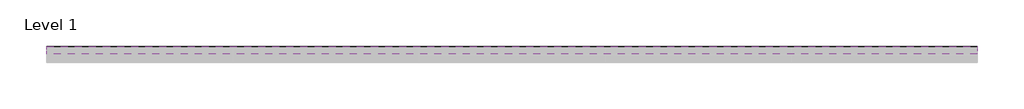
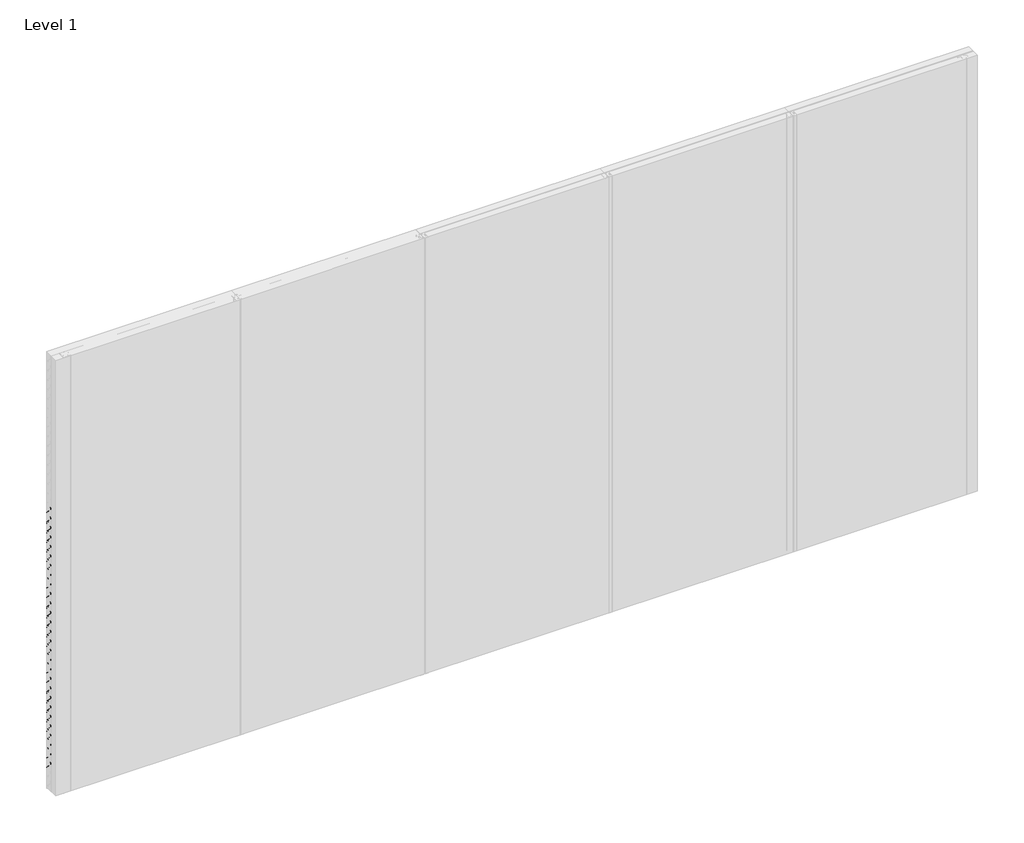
# One storey, part 2 of 7: 28 proxies.
"""IFC4 building model written with IfcOpenShell, lengths in millimetres."""

from ifc_helpers import new_model, si_unit, point, frame, frame_2d, origin, place, context, project, spatial, polyline, circle_curve, trimmed, segment, composite_curve, outline, extrude, element, save

model = new_model("IFC4")

# Units and contexts
model_context = context("Model", 3, world=origin())
ifc_project = project(units=[si_unit("LENGTHUNIT", "METRE", prefix="MILLI")], contexts=[model_context])

# Site, building, storey
site = spatial("IfcSite", under=ifc_project)
building = spatial("IfcBuilding", under=site)
storey = spatial("IfcBuildingStorey", under=building, Name="Level 1", Elevation=0.0)

# Proxies
placement = place(None, origin())
element("IfcBuildingElementProxy", 1, Name="Wall Sweeps", at=placement, inside=storey, context=model_context, shape_type="SweptSolid", body=[
    extrude(outline(composite_curve([segment(polyline([(-13992.5, 1936.0025181), (-13992.5, 1943.9509429), (-13994.5, 1943.9509429), (-13994.5, 1941.5421319), (-13996.0, 1941.5421319), (-13996.0, 1948.6499999), (-13994.5, 1948.6499999), (-13994.5, 1945.4509429), (-13992.5, 1945.4509429), (-13992.5, 1948.7999999), (-13992.1784609, 1950.0), (-13987.7000054, 1950.0), (-13987.7000054, 1946.8499997), (-13989.0835735, 1948.4999997), (-13991.0, 1948.4999997), (-13991.0, 1936.6085574), (-13946.0, 1890.0096933), (-13946.0, 1874.0), (-13947.5, 1876.6798), (-13947.5, 1879.1208496), (-13948.5, 1879.1208496), (-13948.5, 1880.6208496), (-13947.5, 1880.6208496), (-13947.5, 1889.4036539), (-13961.2088107, 1903.599543), (-13963.4375599, 1901.3707939), (-13962.8739549, 1900.8071888)]), True, "CONTINUOUS"), segment(trimmed(circle_curve(frame_2d((-13963.2275083, 1900.4536354)), 0.5), [point((-13962.8739549, 1900.8071888))], [point((-13963.3569178, 1899.9706725))], False, "CARTESIAN"), True, "CONTINUOUS"), segment(polyline([(-13963.3569178, 1899.9706725), (-13966.1977917, 1900.7318824), (-13962.250957, 1904.6787171), (-13992.5, 1936.0025181)]), True, "CONTINUOUS")], self_intersect=False)), frame((0.0, 0.0, 0.0), z_axis=(1.0, 0.0, 0.0), x_axis=(0.0, 1.0, 0.0)), (0.0, 0.0, 1.0), 6000.0),
])
element("IfcBuildingElementProxy", 2, Name="Wall Sweeps", at=placement, inside=storey, context=model_context, shape_type="SweptSolid", body=[
    extrude(outline(composite_curve([segment(polyline([(-13992.5, 1871.0025181), (-13992.5, 1878.9509429), (-13994.5, 1878.9509429), (-13994.5, 1876.5421319), (-13996.0, 1876.5421319), (-13996.0, 1883.6499999), (-13994.5, 1883.6499999), (-13994.5, 1880.4509429), (-13992.5, 1880.4509429), (-13992.5, 1883.7999999), (-13992.1784609, 1885.0), (-13987.7000054, 1885.0), (-13987.7000054, 1881.8499997), (-13989.0835735, 1883.4999997), (-13991.0, 1883.4999997), (-13991.0, 1871.6085574), (-13946.0, 1825.0096933), (-13946.0, 1809.0), (-13947.5, 1811.6798), (-13947.5, 1814.1208496), (-13948.5, 1814.1208496), (-13948.5, 1815.6208496), (-13947.5, 1815.6208496), (-13947.5, 1824.4036539), (-13961.2088107, 1838.599543), (-13963.4375599, 1836.3707939), (-13962.8739549, 1835.8071888)]), True, "CONTINUOUS"), segment(trimmed(circle_curve(frame_2d((-13963.2275083, 1835.4536354)), 0.5), [point((-13962.8739549, 1835.8071888))], [point((-13963.3569178, 1834.9706725))], False, "CARTESIAN"), True, "CONTINUOUS"), segment(polyline([(-13963.3569178, 1834.9706725), (-13966.1977917, 1835.7318824), (-13962.250957, 1839.6787171), (-13992.5, 1871.0025181)]), True, "CONTINUOUS")], self_intersect=False)), frame((0.0, 0.0, 0.0), z_axis=(1.0, 0.0, 0.0), x_axis=(0.0, 1.0, 0.0)), (0.0, 0.0, 1.0), 6000.0),
])
element("IfcBuildingElementProxy", 3, Name="Wall Sweeps", at=placement, inside=storey, context=model_context, shape_type="SweptSolid", body=[
    extrude(outline(composite_curve([segment(polyline([(-13992.5, 1806.0025181), (-13992.5, 1813.9509429), (-13994.5, 1813.9509429), (-13994.5, 1811.5421319), (-13996.0, 1811.5421319), (-13996.0, 1818.6499999), (-13994.5, 1818.6499999), (-13994.5, 1815.4509429), (-13992.5, 1815.4509429), (-13992.5, 1818.7999999), (-13992.1784609, 1820.0), (-13987.7000054, 1820.0), (-13987.7000054, 1816.8499997), (-13989.0835735, 1818.4999997), (-13991.0, 1818.4999997), (-13991.0, 1806.6085574), (-13946.0, 1760.0096933), (-13946.0, 1744.0), (-13947.5, 1746.6798), (-13947.5, 1749.1208496), (-13948.5, 1749.1208496), (-13948.5, 1750.6208496), (-13947.5, 1750.6208496), (-13947.5, 1759.4036539), (-13961.2088107, 1773.599543), (-13963.4375599, 1771.3707939), (-13962.8739549, 1770.8071888)]), True, "CONTINUOUS"), segment(trimmed(circle_curve(frame_2d((-13963.2275083, 1770.4536354)), 0.5), [point((-13962.8739549, 1770.8071888))], [point((-13963.3569178, 1769.9706725))], False, "CARTESIAN"), True, "CONTINUOUS"), segment(polyline([(-13963.3569178, 1769.9706725), (-13966.1977917, 1770.7318824), (-13962.250957, 1774.6787171), (-13992.5, 1806.0025181)]), True, "CONTINUOUS")], self_intersect=False)), frame((0.0, 0.0, 0.0), z_axis=(1.0, 0.0, 0.0), x_axis=(0.0, 1.0, 0.0)), (0.0, 0.0, 1.0), 6000.0),
])
element("IfcBuildingElementProxy", 4, Name="Wall Sweeps", at=placement, inside=storey, context=model_context, shape_type="SweptSolid", body=[
    extrude(outline(composite_curve([segment(polyline([(-13992.5, 1741.0025181), (-13992.5, 1748.9509429), (-13994.5, 1748.9509429), (-13994.5, 1746.5421319), (-13996.0, 1746.5421319), (-13996.0, 1753.6499999), (-13994.5, 1753.6499999), (-13994.5, 1750.4509429), (-13992.5, 1750.4509429), (-13992.5, 1753.7999999), (-13992.1784609, 1755.0), (-13987.7000054, 1755.0), (-13987.7000054, 1751.8499997), (-13989.0835735, 1753.4999997), (-13991.0, 1753.4999997), (-13991.0, 1741.6085574), (-13946.0, 1695.0096933), (-13946.0, 1679.0), (-13947.5, 1681.6798), (-13947.5, 1684.1208496), (-13948.5, 1684.1208496), (-13948.5, 1685.6208496), (-13947.5, 1685.6208496), (-13947.5, 1694.4036539), (-13961.2088107, 1708.599543), (-13963.4375599, 1706.3707939), (-13962.8739549, 1705.8071888)]), True, "CONTINUOUS"), segment(trimmed(circle_curve(frame_2d((-13963.2275083, 1705.4536354)), 0.5), [point((-13962.8739549, 1705.8071888))], [point((-13963.3569178, 1704.9706725))], False, "CARTESIAN"), True, "CONTINUOUS"), segment(polyline([(-13963.3569178, 1704.9706725), (-13966.1977917, 1705.7318824), (-13962.250957, 1709.6787171), (-13992.5, 1741.0025181)]), True, "CONTINUOUS")], self_intersect=False)), frame((0.0, 0.0, 0.0), z_axis=(1.0, 0.0, 0.0), x_axis=(0.0, 1.0, 0.0)), (0.0, 0.0, 1.0), 6000.0),
])
element("IfcBuildingElementProxy", 5, Name="Wall Sweeps", at=placement, inside=storey, context=model_context, shape_type="SweptSolid", body=[
    extrude(outline(composite_curve([segment(polyline([(-13992.5, 1676.0025181), (-13992.5, 1683.9509429), (-13994.5, 1683.9509429), (-13994.5, 1681.5421319), (-13996.0, 1681.5421319), (-13996.0, 1688.6499999), (-13994.5, 1688.6499999), (-13994.5, 1685.4509429), (-13992.5, 1685.4509429), (-13992.5, 1688.7999999), (-13992.1784609, 1690.0), (-13987.7000054, 1690.0), (-13987.7000054, 1686.8499997), (-13989.0835735, 1688.4999997), (-13991.0, 1688.4999997), (-13991.0, 1676.6085574), (-13946.0, 1630.0096933), (-13946.0, 1614.0), (-13947.5, 1616.6798), (-13947.5, 1619.1208496), (-13948.5, 1619.1208496), (-13948.5, 1620.6208496), (-13947.5, 1620.6208496), (-13947.5, 1629.4036539), (-13961.2088107, 1643.599543), (-13963.4375599, 1641.3707939), (-13962.8739549, 1640.8071888)]), True, "CONTINUOUS"), segment(trimmed(circle_curve(frame_2d((-13963.2275083, 1640.4536354)), 0.5), [point((-13962.8739549, 1640.8071888))], [point((-13963.3569178, 1639.9706725))], False, "CARTESIAN"), True, "CONTINUOUS"), segment(polyline([(-13963.3569178, 1639.9706725), (-13966.1977917, 1640.7318824), (-13962.250957, 1644.6787171), (-13992.5, 1676.0025181)]), True, "CONTINUOUS")], self_intersect=False)), frame((0.0, 0.0, 0.0), z_axis=(1.0, 0.0, 0.0), x_axis=(0.0, 1.0, 0.0)), (0.0, 0.0, 1.0), 6000.0),
])
element("IfcBuildingElementProxy", 6, Name="Wall Sweeps", at=placement, inside=storey, context=model_context, shape_type="SweptSolid", body=[
    extrude(outline(composite_curve([segment(polyline([(-13992.5, 1611.0025181), (-13992.5, 1618.9509429), (-13994.5, 1618.9509429), (-13994.5, 1616.5421319), (-13996.0, 1616.5421319), (-13996.0, 1623.6499999), (-13994.5, 1623.6499999), (-13994.5, 1620.4509429), (-13992.5, 1620.4509429), (-13992.5, 1623.7999999), (-13992.1784609, 1625.0), (-13987.7000054, 1625.0), (-13987.7000054, 1621.8499997), (-13989.0835735, 1623.4999997), (-13991.0, 1623.4999997), (-13991.0, 1611.6085574), (-13946.0, 1565.0096933), (-13946.0, 1549.0), (-13947.5, 1551.6798), (-13947.5, 1554.1208496), (-13948.5, 1554.1208496), (-13948.5, 1555.6208496), (-13947.5, 1555.6208496), (-13947.5, 1564.4036539), (-13961.2088107, 1578.599543), (-13963.4375599, 1576.3707939), (-13962.8739549, 1575.8071888)]), True, "CONTINUOUS"), segment(trimmed(circle_curve(frame_2d((-13963.2275083, 1575.4536354)), 0.5), [point((-13962.8739549, 1575.8071888))], [point((-13963.3569178, 1574.9706725))], False, "CARTESIAN"), True, "CONTINUOUS"), segment(polyline([(-13963.3569178, 1574.9706725), (-13966.1977917, 1575.7318824), (-13962.250957, 1579.6787171), (-13992.5, 1611.0025181)]), True, "CONTINUOUS")], self_intersect=False)), frame((0.0, 0.0, 0.0), z_axis=(1.0, 0.0, 0.0), x_axis=(0.0, 1.0, 0.0)), (0.0, 0.0, 1.0), 6000.0),
])
element("IfcBuildingElementProxy", 7, Name="Wall Sweeps", at=placement, inside=storey, context=model_context, shape_type="SweptSolid", body=[
    extrude(outline(composite_curve([segment(polyline([(-13992.5, 1546.0025181), (-13992.5, 1553.9509429), (-13994.5, 1553.9509429), (-13994.5, 1551.5421319), (-13996.0, 1551.5421319), (-13996.0, 1558.6499999), (-13994.5, 1558.6499999), (-13994.5, 1555.4509429), (-13992.5, 1555.4509429), (-13992.5, 1558.7999999), (-13992.1784609, 1560.0), (-13987.7000054, 1560.0), (-13987.7000054, 1556.8499997), (-13989.0835735, 1558.4999997), (-13991.0, 1558.4999997), (-13991.0, 1546.6085574), (-13946.0, 1500.0096933), (-13946.0, 1484.0), (-13947.5, 1486.6798), (-13947.5, 1489.1208496), (-13948.5, 1489.1208496), (-13948.5, 1490.6208496), (-13947.5, 1490.6208496), (-13947.5, 1499.4036539), (-13961.2088107, 1513.599543), (-13963.4375599, 1511.3707939), (-13962.8739549, 1510.8071888)]), True, "CONTINUOUS"), segment(trimmed(circle_curve(frame_2d((-13963.2275083, 1510.4536354)), 0.5), [point((-13962.8739549, 1510.8071888))], [point((-13963.3569178, 1509.9706725))], False, "CARTESIAN"), True, "CONTINUOUS"), segment(polyline([(-13963.3569178, 1509.9706725), (-13966.1977917, 1510.7318824), (-13962.250957, 1514.6787171), (-13992.5, 1546.0025181)]), True, "CONTINUOUS")], self_intersect=False)), frame((0.0, 0.0, 0.0), z_axis=(1.0, 0.0, 0.0), x_axis=(0.0, 1.0, 0.0)), (0.0, 0.0, 1.0), 6000.0),
])
element("IfcBuildingElementProxy", 8, Name="Wall Sweeps", at=placement, inside=storey, context=model_context, shape_type="SweptSolid", body=[
    extrude(outline(composite_curve([segment(polyline([(-13992.5, 1481.0025181), (-13992.5, 1488.9509429), (-13994.5, 1488.9509429), (-13994.5, 1486.5421319), (-13996.0, 1486.5421319), (-13996.0, 1493.6499999), (-13994.5, 1493.6499999), (-13994.5, 1490.4509429), (-13992.5, 1490.4509429), (-13992.5, 1493.7999999), (-13992.1784609, 1495.0), (-13987.7000054, 1495.0), (-13987.7000054, 1491.8499997), (-13989.0835735, 1493.4999997), (-13991.0, 1493.4999997), (-13991.0, 1481.6085574), (-13946.0, 1435.0096933), (-13946.0, 1419.0), (-13947.5, 1421.6798), (-13947.5, 1424.1208496), (-13948.5, 1424.1208496), (-13948.5, 1425.6208496), (-13947.5, 1425.6208496), (-13947.5, 1434.4036539), (-13961.2088107, 1448.599543), (-13963.4375599, 1446.3707939), (-13962.8739549, 1445.8071888)]), True, "CONTINUOUS"), segment(trimmed(circle_curve(frame_2d((-13963.2275083, 1445.4536354)), 0.5), [point((-13962.8739549, 1445.8071888))], [point((-13963.3569178, 1444.9706725))], False, "CARTESIAN"), True, "CONTINUOUS"), segment(polyline([(-13963.3569178, 1444.9706725), (-13966.1977917, 1445.7318824), (-13962.250957, 1449.6787171), (-13992.5, 1481.0025181)]), True, "CONTINUOUS")], self_intersect=False)), frame((0.0, 0.0, 0.0), z_axis=(1.0, 0.0, 0.0), x_axis=(0.0, 1.0, 0.0)), (0.0, 0.0, 1.0), 6000.0),
])
element("IfcBuildingElementProxy", 9, Name="Wall Sweeps", at=placement, inside=storey, context=model_context, shape_type="SweptSolid", body=[
    extrude(outline(composite_curve([segment(polyline([(-13992.5, 1416.0025181), (-13992.5, 1423.9509429), (-13994.5, 1423.9509429), (-13994.5, 1421.5421319), (-13996.0, 1421.5421319), (-13996.0, 1428.6499999), (-13994.5, 1428.6499999), (-13994.5, 1425.4509429), (-13992.5, 1425.4509429), (-13992.5, 1428.7999999), (-13992.1784609, 1430.0), (-13987.7000054, 1430.0), (-13987.7000054, 1426.8499997), (-13989.0835735, 1428.4999997), (-13991.0, 1428.4999997), (-13991.0, 1416.6085574), (-13946.0, 1370.0096933), (-13946.0, 1354.0), (-13947.5, 1356.6798), (-13947.5, 1359.1208496), (-13948.5, 1359.1208496), (-13948.5, 1360.6208496), (-13947.5, 1360.6208496), (-13947.5, 1369.4036539), (-13961.2088107, 1383.599543), (-13963.4375599, 1381.3707939), (-13962.8739549, 1380.8071888)]), True, "CONTINUOUS"), segment(trimmed(circle_curve(frame_2d((-13963.2275083, 1380.4536354)), 0.5), [point((-13962.8739549, 1380.8071888))], [point((-13963.3569178, 1379.9706725))], False, "CARTESIAN"), True, "CONTINUOUS"), segment(polyline([(-13963.3569178, 1379.9706725), (-13966.1977917, 1380.7318824), (-13962.250957, 1384.6787171), (-13992.5, 1416.0025181)]), True, "CONTINUOUS")], self_intersect=False)), frame((0.0, 0.0, 0.0), z_axis=(1.0, 0.0, 0.0), x_axis=(0.0, 1.0, 0.0)), (0.0, 0.0, 1.0), 6000.0),
])
element("IfcBuildingElementProxy", 10, Name="Wall Sweeps", at=placement, inside=storey, context=model_context, shape_type="SweptSolid", body=[
    extrude(outline(composite_curve([segment(polyline([(-13992.5, 1351.0025181), (-13992.5, 1358.9509429), (-13994.5, 1358.9509429), (-13994.5, 1356.5421319), (-13996.0, 1356.5421319), (-13996.0, 1363.6499999), (-13994.5, 1363.6499999), (-13994.5, 1360.4509429), (-13992.5, 1360.4509429), (-13992.5, 1363.7999999), (-13992.1784609, 1365.0), (-13987.7000054, 1365.0), (-13987.7000054, 1361.8499997), (-13989.0835735, 1363.4999997), (-13991.0, 1363.4999997), (-13991.0, 1351.6085574), (-13946.0, 1305.0096933), (-13946.0, 1289.0), (-13947.5, 1291.6798), (-13947.5, 1294.1208496), (-13948.5, 1294.1208496), (-13948.5, 1295.6208496), (-13947.5, 1295.6208496), (-13947.5, 1304.4036539), (-13961.2088107, 1318.599543), (-13963.4375599, 1316.3707939), (-13962.8739549, 1315.8071888)]), True, "CONTINUOUS"), segment(trimmed(circle_curve(frame_2d((-13963.2275083, 1315.4536354)), 0.5), [point((-13962.8739549, 1315.8071888))], [point((-13963.3569178, 1314.9706725))], False, "CARTESIAN"), True, "CONTINUOUS"), segment(polyline([(-13963.3569178, 1314.9706725), (-13966.1977917, 1315.7318824), (-13962.250957, 1319.6787171), (-13992.5, 1351.0025181)]), True, "CONTINUOUS")], self_intersect=False)), frame((0.0, 0.0, 0.0), z_axis=(1.0, 0.0, 0.0), x_axis=(0.0, 1.0, 0.0)), (0.0, 0.0, 1.0), 6000.0),
])
element("IfcBuildingElementProxy", 11, Name="Wall Sweeps", at=placement, inside=storey, context=model_context, shape_type="SweptSolid", body=[
    extrude(outline(composite_curve([segment(polyline([(-13992.5, 1286.0025181), (-13992.5, 1293.9509429), (-13994.5, 1293.9509429), (-13994.5, 1291.5421319), (-13996.0, 1291.5421319), (-13996.0, 1298.6499999), (-13994.5, 1298.6499999), (-13994.5, 1295.4509429), (-13992.5, 1295.4509429), (-13992.5, 1298.7999999), (-13992.1784609, 1300.0), (-13987.7000054, 1300.0), (-13987.7000054, 1296.8499997), (-13989.0835735, 1298.4999997), (-13991.0, 1298.4999997), (-13991.0, 1286.6085574), (-13946.0, 1240.0096933), (-13946.0, 1224.0), (-13947.5, 1226.6798), (-13947.5, 1229.1208496), (-13948.5, 1229.1208496), (-13948.5, 1230.6208496), (-13947.5, 1230.6208496), (-13947.5, 1239.4036539), (-13961.2088107, 1253.599543), (-13963.4375599, 1251.3707939), (-13962.8739549, 1250.8071888)]), True, "CONTINUOUS"), segment(trimmed(circle_curve(frame_2d((-13963.2275083, 1250.4536354)), 0.5), [point((-13962.8739549, 1250.8071888))], [point((-13963.3569178, 1249.9706725))], False, "CARTESIAN"), True, "CONTINUOUS"), segment(polyline([(-13963.3569178, 1249.9706725), (-13966.1977917, 1250.7318824), (-13962.250957, 1254.6787171), (-13992.5, 1286.0025181)]), True, "CONTINUOUS")], self_intersect=False)), frame((0.0, 0.0, 0.0), z_axis=(1.0, 0.0, 0.0), x_axis=(0.0, 1.0, 0.0)), (0.0, 0.0, 1.0), 6000.0),
])
element("IfcBuildingElementProxy", 12, Name="Wall Sweeps", at=placement, inside=storey, context=model_context, shape_type="SweptSolid", body=[
    extrude(outline(composite_curve([segment(polyline([(-13992.5, 1221.0025181), (-13992.5, 1228.9509429), (-13994.5, 1228.9509429), (-13994.5, 1226.5421319), (-13996.0, 1226.5421319), (-13996.0, 1233.6499999), (-13994.5, 1233.6499999), (-13994.5, 1230.4509429), (-13992.5, 1230.4509429), (-13992.5, 1233.7999999), (-13992.1784609, 1235.0), (-13987.7000054, 1235.0), (-13987.7000054, 1231.8499997), (-13989.0835735, 1233.4999997), (-13991.0, 1233.4999997), (-13991.0, 1221.6085574), (-13946.0, 1175.0096933), (-13946.0, 1159.0), (-13947.5, 1161.6798), (-13947.5, 1164.1208496), (-13948.5, 1164.1208496), (-13948.5, 1165.6208496), (-13947.5, 1165.6208496), (-13947.5, 1174.4036539), (-13961.2088107, 1188.599543), (-13963.4375599, 1186.3707939), (-13962.8739549, 1185.8071888)]), True, "CONTINUOUS"), segment(trimmed(circle_curve(frame_2d((-13963.2275083, 1185.4536354)), 0.5), [point((-13962.8739549, 1185.8071888))], [point((-13963.3569178, 1184.9706725))], False, "CARTESIAN"), True, "CONTINUOUS"), segment(polyline([(-13963.3569178, 1184.9706725), (-13966.1977917, 1185.7318824), (-13962.250957, 1189.6787171), (-13992.5, 1221.0025181)]), True, "CONTINUOUS")], self_intersect=False)), frame((0.0, 0.0, 0.0), z_axis=(1.0, 0.0, 0.0), x_axis=(0.0, 1.0, 0.0)), (0.0, 0.0, 1.0), 6000.0),
])
element("IfcBuildingElementProxy", 13, Name="Wall Sweeps", at=placement, inside=storey, context=model_context, shape_type="SweptSolid", body=[
    extrude(outline(composite_curve([segment(polyline([(-13992.5, 1156.0025181), (-13992.5, 1163.9509429), (-13994.5, 1163.9509429), (-13994.5, 1161.5421319), (-13996.0, 1161.5421319), (-13996.0, 1168.6499999), (-13994.5, 1168.6499999), (-13994.5, 1165.4509429), (-13992.5, 1165.4509429), (-13992.5, 1168.7999999), (-13992.1784609, 1170.0), (-13987.7000054, 1170.0), (-13987.7000054, 1166.8499997), (-13989.0835735, 1168.4999997), (-13991.0, 1168.4999997), (-13991.0, 1156.6085574), (-13946.0, 1110.0096933), (-13946.0, 1094.0), (-13947.5, 1096.6798), (-13947.5, 1099.1208496), (-13948.5, 1099.1208496), (-13948.5, 1100.6208496), (-13947.5, 1100.6208496), (-13947.5, 1109.4036539), (-13961.2088107, 1123.599543), (-13963.4375599, 1121.3707939), (-13962.8739549, 1120.8071888)]), True, "CONTINUOUS"), segment(trimmed(circle_curve(frame_2d((-13963.2275083, 1120.4536354)), 0.5), [point((-13962.8739549, 1120.8071888))], [point((-13963.3569178, 1119.9706725))], False, "CARTESIAN"), True, "CONTINUOUS"), segment(polyline([(-13963.3569178, 1119.9706725), (-13966.1977917, 1120.7318824), (-13962.250957, 1124.6787171), (-13992.5, 1156.0025181)]), True, "CONTINUOUS")], self_intersect=False)), frame((0.0, 0.0, 0.0), z_axis=(1.0, 0.0, 0.0), x_axis=(0.0, 1.0, 0.0)), (0.0, 0.0, 1.0), 6000.0),
])
element("IfcBuildingElementProxy", 14, Name="Wall Sweeps", at=placement, inside=storey, context=model_context, shape_type="SweptSolid", body=[
    extrude(outline(composite_curve([segment(polyline([(-13992.5, 1091.0025181), (-13992.5, 1098.9509429), (-13994.5, 1098.9509429), (-13994.5, 1096.5421319), (-13996.0, 1096.5421319), (-13996.0, 1103.6499999), (-13994.5, 1103.6499999), (-13994.5, 1100.4509429), (-13992.5, 1100.4509429), (-13992.5, 1103.7999999), (-13992.1784609, 1105.0), (-13987.7000054, 1105.0), (-13987.7000054, 1101.8499997), (-13989.0835735, 1103.4999997), (-13991.0, 1103.4999997), (-13991.0, 1091.6085574), (-13946.0, 1045.0096933), (-13946.0, 1029.0), (-13947.5, 1031.6798), (-13947.5, 1034.1208496), (-13948.5, 1034.1208496), (-13948.5, 1035.6208496), (-13947.5, 1035.6208496), (-13947.5, 1044.4036539), (-13961.2088107, 1058.599543), (-13963.4375599, 1056.3707939), (-13962.8739549, 1055.8071888)]), True, "CONTINUOUS"), segment(trimmed(circle_curve(frame_2d((-13963.2275083, 1055.4536354)), 0.5), [point((-13962.8739549, 1055.8071888))], [point((-13963.3569178, 1054.9706725))], False, "CARTESIAN"), True, "CONTINUOUS"), segment(polyline([(-13963.3569178, 1054.9706725), (-13966.1977917, 1055.7318824), (-13962.250957, 1059.6787171), (-13992.5, 1091.0025181)]), True, "CONTINUOUS")], self_intersect=False)), frame((0.0, 0.0, 0.0), z_axis=(1.0, 0.0, 0.0), x_axis=(0.0, 1.0, 0.0)), (0.0, 0.0, 1.0), 6000.0),
])
element("IfcBuildingElementProxy", 15, Name="Wall Sweeps", at=placement, inside=storey, context=model_context, shape_type="SweptSolid", body=[
    extrude(outline(composite_curve([segment(polyline([(-13992.5, 1026.0025181), (-13992.5, 1033.9509429), (-13994.5, 1033.9509429), (-13994.5, 1031.5421319), (-13996.0, 1031.5421319), (-13996.0, 1038.6499999), (-13994.5, 1038.6499999), (-13994.5, 1035.4509429), (-13992.5, 1035.4509429), (-13992.5, 1038.7999999), (-13992.1784609, 1040.0), (-13987.7000054, 1040.0), (-13987.7000054, 1036.8499997), (-13989.0835735, 1038.4999997), (-13991.0, 1038.4999997), (-13991.0, 1026.6085574), (-13946.0, 980.0096933), (-13946.0, 964.0), (-13947.5, 966.6798), (-13947.5, 969.1208496), (-13948.5, 969.1208496), (-13948.5, 970.6208496), (-13947.5, 970.6208496), (-13947.5, 979.4036539), (-13961.2088107, 993.599543), (-13963.4375599, 991.3707939), (-13962.8739549, 990.8071888)]), True, "CONTINUOUS"), segment(trimmed(circle_curve(frame_2d((-13963.2275083, 990.4536354)), 0.5), [point((-13962.8739549, 990.8071888))], [point((-13963.3569178, 989.9706725))], False, "CARTESIAN"), True, "CONTINUOUS"), segment(polyline([(-13963.3569178, 989.9706725), (-13966.1977917, 990.7318824), (-13962.250957, 994.6787171), (-13992.5, 1026.0025181)]), True, "CONTINUOUS")], self_intersect=False)), frame((0.0, 0.0, 0.0), z_axis=(1.0, 0.0, 0.0), x_axis=(0.0, 1.0, 0.0)), (0.0, 0.0, 1.0), 6000.0),
])
element("IfcBuildingElementProxy", 16, Name="Wall Sweeps", at=placement, inside=storey, context=model_context, shape_type="SweptSolid", body=[
    extrude(outline(composite_curve([segment(polyline([(-13992.5, 961.0025181), (-13992.5, 968.9509429), (-13994.5, 968.9509429), (-13994.5, 966.5421319), (-13996.0, 966.5421319), (-13996.0, 973.6499999), (-13994.5, 973.6499999), (-13994.5, 970.4509429), (-13992.5, 970.4509429), (-13992.5, 973.7999999), (-13992.1784609, 975.0), (-13987.7000054, 975.0), (-13987.7000054, 971.8499997), (-13989.0835735, 973.4999997), (-13991.0, 973.4999997), (-13991.0, 961.6085574), (-13946.0, 915.0096933), (-13946.0, 899.0), (-13947.5, 901.6798), (-13947.5, 904.1208496), (-13948.5, 904.1208496), (-13948.5, 905.6208496), (-13947.5, 905.6208496), (-13947.5, 914.4036539), (-13961.2088107, 928.599543), (-13963.4375599, 926.3707939), (-13962.8739549, 925.8071888)]), True, "CONTINUOUS"), segment(trimmed(circle_curve(frame_2d((-13963.2275083, 925.4536354)), 0.5), [point((-13962.8739549, 925.8071888))], [point((-13963.3569178, 924.9706725))], False, "CARTESIAN"), True, "CONTINUOUS"), segment(polyline([(-13963.3569178, 924.9706725), (-13966.1977917, 925.7318824), (-13962.250957, 929.6787171), (-13992.5, 961.0025181)]), True, "CONTINUOUS")], self_intersect=False)), frame((0.0, 0.0, 0.0), z_axis=(1.0, 0.0, 0.0), x_axis=(0.0, 1.0, 0.0)), (0.0, 0.0, 1.0), 6000.0),
])
element("IfcBuildingElementProxy", 17, Name="Wall Sweeps", at=placement, inside=storey, context=model_context, shape_type="SweptSolid", body=[
    extrude(outline(composite_curve([segment(polyline([(-13992.5, 896.0025181), (-13992.5, 903.9509429), (-13994.5, 903.9509429), (-13994.5, 901.5421319), (-13996.0, 901.5421319), (-13996.0, 908.6499999), (-13994.5, 908.6499999), (-13994.5, 905.4509429), (-13992.5, 905.4509429), (-13992.5, 908.7999999), (-13992.1784609, 910.0), (-13987.7000054, 910.0), (-13987.7000054, 906.8499997), (-13989.0835735, 908.4999997), (-13991.0, 908.4999997), (-13991.0, 896.6085574), (-13946.0, 850.0096933), (-13946.0, 834.0), (-13947.5, 836.6798), (-13947.5, 839.1208496), (-13948.5, 839.1208496), (-13948.5, 840.6208496), (-13947.5, 840.6208496), (-13947.5, 849.4036539), (-13961.2088107, 863.599543), (-13963.4375599, 861.3707939), (-13962.8739549, 860.8071888)]), True, "CONTINUOUS"), segment(trimmed(circle_curve(frame_2d((-13963.2275083, 860.4536354)), 0.5), [point((-13962.8739549, 860.8071888))], [point((-13963.3569178, 859.9706725))], False, "CARTESIAN"), True, "CONTINUOUS"), segment(polyline([(-13963.3569178, 859.9706725), (-13966.1977917, 860.7318824), (-13962.250957, 864.6787171), (-13992.5, 896.0025181)]), True, "CONTINUOUS")], self_intersect=False)), frame((0.0, 0.0, 0.0), z_axis=(1.0, 0.0, 0.0), x_axis=(0.0, 1.0, 0.0)), (0.0, 0.0, 1.0), 6000.0),
])
element("IfcBuildingElementProxy", 18, Name="Wall Sweeps", at=placement, inside=storey, context=model_context, shape_type="SweptSolid", body=[
    extrude(outline(composite_curve([segment(polyline([(-13992.5, 831.0025181), (-13992.5, 838.9509429), (-13994.5, 838.9509429), (-13994.5, 836.5421319), (-13996.0, 836.5421319), (-13996.0, 843.6499999), (-13994.5, 843.6499999), (-13994.5, 840.4509429), (-13992.5, 840.4509429), (-13992.5, 843.7999999), (-13992.1784609, 845.0), (-13987.7000054, 845.0), (-13987.7000054, 841.8499997), (-13989.0835735, 843.4999997), (-13991.0, 843.4999997), (-13991.0, 831.6085574), (-13946.0, 785.0096933), (-13946.0, 769.0), (-13947.5, 771.6798), (-13947.5, 774.1208496), (-13948.5, 774.1208496), (-13948.5, 775.6208496), (-13947.5, 775.6208496), (-13947.5, 784.4036539), (-13961.2088107, 798.599543), (-13963.4375599, 796.3707939), (-13962.8739549, 795.8071888)]), True, "CONTINUOUS"), segment(trimmed(circle_curve(frame_2d((-13963.2275083, 795.4536354)), 0.5), [point((-13962.8739549, 795.8071888))], [point((-13963.3569178, 794.9706725))], False, "CARTESIAN"), True, "CONTINUOUS"), segment(polyline([(-13963.3569178, 794.9706725), (-13966.1977917, 795.7318824), (-13962.250957, 799.6787171), (-13992.5, 831.0025181)]), True, "CONTINUOUS")], self_intersect=False)), frame((0.0, 0.0, 0.0), z_axis=(1.0, 0.0, 0.0), x_axis=(0.0, 1.0, 0.0)), (0.0, 0.0, 1.0), 6000.0),
])
element("IfcBuildingElementProxy", 19, Name="Wall Sweeps", at=placement, inside=storey, context=model_context, shape_type="SweptSolid", body=[
    extrude(outline(composite_curve([segment(polyline([(-13992.5, 766.0025181), (-13992.5, 773.9509429), (-13994.5, 773.9509429), (-13994.5, 771.5421319), (-13996.0, 771.5421319), (-13996.0, 778.6499999), (-13994.5, 778.6499999), (-13994.5, 775.4509429), (-13992.5, 775.4509429), (-13992.5, 778.7999999), (-13992.1784609, 780.0), (-13987.7000054, 780.0), (-13987.7000054, 776.8499997), (-13989.0835735, 778.4999997), (-13991.0, 778.4999997), (-13991.0, 766.6085574), (-13946.0, 720.0096933), (-13946.0, 704.0), (-13947.5, 706.6798), (-13947.5, 709.1208496), (-13948.5, 709.1208496), (-13948.5, 710.6208496), (-13947.5, 710.6208496), (-13947.5, 719.4036539), (-13961.2088107, 733.599543), (-13963.4375599, 731.3707939), (-13962.8739549, 730.8071888)]), True, "CONTINUOUS"), segment(trimmed(circle_curve(frame_2d((-13963.2275083, 730.4536354)), 0.5), [point((-13962.8739549, 730.8071888))], [point((-13963.3569178, 729.9706725))], False, "CARTESIAN"), True, "CONTINUOUS"), segment(polyline([(-13963.3569178, 729.9706725), (-13966.1977917, 730.7318824), (-13962.250957, 734.6787171), (-13992.5, 766.0025181)]), True, "CONTINUOUS")], self_intersect=False)), frame((0.0, 0.0, 0.0), z_axis=(1.0, 0.0, 0.0), x_axis=(0.0, 1.0, 0.0)), (0.0, 0.0, 1.0), 6000.0),
])
element("IfcBuildingElementProxy", 20, Name="Wall Sweeps", at=placement, inside=storey, context=model_context, shape_type="SweptSolid", body=[
    extrude(outline(composite_curve([segment(polyline([(-13992.5, 701.0025181), (-13992.5, 708.9509429), (-13994.5, 708.9509429), (-13994.5, 706.5421319), (-13996.0, 706.5421319), (-13996.0, 713.6499999), (-13994.5, 713.6499999), (-13994.5, 710.4509429), (-13992.5, 710.4509429), (-13992.5, 713.7999999), (-13992.1784609, 715.0), (-13987.7000054, 715.0), (-13987.7000054, 711.8499997), (-13989.0835735, 713.4999997), (-13991.0, 713.4999997), (-13991.0, 701.6085574), (-13946.0, 655.0096933), (-13946.0, 639.0), (-13947.5, 641.6798), (-13947.5, 644.1208496), (-13948.5, 644.1208496), (-13948.5, 645.6208496), (-13947.5, 645.6208496), (-13947.5, 654.4036539), (-13961.2088107, 668.599543), (-13963.4375599, 666.3707939), (-13962.8739549, 665.8071888)]), True, "CONTINUOUS"), segment(trimmed(circle_curve(frame_2d((-13963.2275083, 665.4536354)), 0.5), [point((-13962.8739549, 665.8071888))], [point((-13963.3569178, 664.9706725))], False, "CARTESIAN"), True, "CONTINUOUS"), segment(polyline([(-13963.3569178, 664.9706725), (-13966.1977917, 665.7318824), (-13962.250957, 669.6787171), (-13992.5, 701.0025181)]), True, "CONTINUOUS")], self_intersect=False)), frame((0.0, 0.0, 0.0), z_axis=(1.0, 0.0, 0.0), x_axis=(0.0, 1.0, 0.0)), (0.0, 0.0, 1.0), 6000.0),
])
element("IfcBuildingElementProxy", 21, Name="Wall Sweeps", at=placement, inside=storey, context=model_context, shape_type="SweptSolid", body=[
    extrude(outline(composite_curve([segment(polyline([(-13992.5, 636.0025181), (-13992.5, 643.9509429), (-13994.5, 643.9509429), (-13994.5, 641.5421319), (-13996.0, 641.5421319), (-13996.0, 648.6499999), (-13994.5, 648.6499999), (-13994.5, 645.4509429), (-13992.5, 645.4509429), (-13992.5, 648.7999999), (-13992.1784609, 650.0), (-13987.7000054, 650.0), (-13987.7000054, 646.8499997), (-13989.0835735, 648.4999997), (-13991.0, 648.4999997), (-13991.0, 636.6085574), (-13946.0, 590.0096933), (-13946.0, 574.0), (-13947.5, 576.6798), (-13947.5, 579.1208496), (-13948.5, 579.1208496), (-13948.5, 580.6208496), (-13947.5, 580.6208496), (-13947.5, 589.4036539), (-13961.2088107, 603.599543), (-13963.4375599, 601.3707939), (-13962.8739549, 600.8071888)]), True, "CONTINUOUS"), segment(trimmed(circle_curve(frame_2d((-13963.2275083, 600.4536354)), 0.5), [point((-13962.8739549, 600.8071888))], [point((-13963.3569178, 599.9706725))], False, "CARTESIAN"), True, "CONTINUOUS"), segment(polyline([(-13963.3569178, 599.9706725), (-13966.1977917, 600.7318824), (-13962.250957, 604.6787171), (-13992.5, 636.0025181)]), True, "CONTINUOUS")], self_intersect=False)), frame((0.0, 0.0, 0.0), z_axis=(1.0, 0.0, 0.0), x_axis=(0.0, 1.0, 0.0)), (0.0, 0.0, 1.0), 6000.0),
])
element("IfcBuildingElementProxy", 22, Name="Wall Sweeps", at=placement, inside=storey, context=model_context, shape_type="SweptSolid", body=[
    extrude(outline(composite_curve([segment(polyline([(-13992.5, 571.0025181), (-13992.5, 578.9509429), (-13994.5, 578.9509429), (-13994.5, 576.5421319), (-13996.0, 576.5421319), (-13996.0, 583.6499999), (-13994.5, 583.6499999), (-13994.5, 580.4509429), (-13992.5, 580.4509429), (-13992.5, 583.7999999), (-13992.1784609, 585.0), (-13987.7000054, 585.0), (-13987.7000054, 581.8499997), (-13989.0835735, 583.4999997), (-13991.0, 583.4999997), (-13991.0, 571.6085574), (-13946.0, 525.0096933), (-13946.0, 509.0), (-13947.5, 511.6798), (-13947.5, 514.1208496), (-13948.5, 514.1208496), (-13948.5, 515.6208496), (-13947.5, 515.6208496), (-13947.5, 524.4036539), (-13961.2088107, 538.599543), (-13963.4375599, 536.3707939), (-13962.8739549, 535.8071888)]), True, "CONTINUOUS"), segment(trimmed(circle_curve(frame_2d((-13963.2275083, 535.4536354)), 0.5), [point((-13962.8739549, 535.8071888))], [point((-13963.3569178, 534.9706725))], False, "CARTESIAN"), True, "CONTINUOUS"), segment(polyline([(-13963.3569178, 534.9706725), (-13966.1977917, 535.7318824), (-13962.250957, 539.6787171), (-13992.5, 571.0025181)]), True, "CONTINUOUS")], self_intersect=False)), frame((0.0, 0.0, 0.0), z_axis=(1.0, 0.0, 0.0), x_axis=(0.0, 1.0, 0.0)), (0.0, 0.0, 1.0), 6000.0),
])
element("IfcBuildingElementProxy", 23, Name="Wall Sweeps", at=placement, inside=storey, context=model_context, shape_type="SweptSolid", body=[
    extrude(outline(composite_curve([segment(polyline([(-13992.5, 506.0025181), (-13992.5, 513.9509429), (-13994.5, 513.9509429), (-13994.5, 511.5421319), (-13996.0, 511.5421319), (-13996.0, 518.6499999), (-13994.5, 518.6499999), (-13994.5, 515.4509429), (-13992.5, 515.4509429), (-13992.5, 518.7999999), (-13992.1784609, 520.0), (-13987.7000054, 520.0), (-13987.7000054, 516.8499997), (-13989.0835735, 518.4999997), (-13991.0, 518.4999997), (-13991.0, 506.6085574), (-13946.0, 460.0096933), (-13946.0, 444.0), (-13947.5, 446.6798), (-13947.5, 449.1208496), (-13948.5, 449.1208496), (-13948.5, 450.6208496), (-13947.5, 450.6208496), (-13947.5, 459.4036539), (-13961.2088107, 473.599543), (-13963.4375599, 471.3707939), (-13962.8739549, 470.8071888)]), True, "CONTINUOUS"), segment(trimmed(circle_curve(frame_2d((-13963.2275083, 470.4536354)), 0.5), [point((-13962.8739549, 470.8071888))], [point((-13963.3569178, 469.9706725))], False, "CARTESIAN"), True, "CONTINUOUS"), segment(polyline([(-13963.3569178, 469.9706725), (-13966.1977917, 470.7318824), (-13962.250957, 474.6787171), (-13992.5, 506.0025181)]), True, "CONTINUOUS")], self_intersect=False)), frame((0.0, 0.0, 0.0), z_axis=(1.0, 0.0, 0.0), x_axis=(0.0, 1.0, 0.0)), (0.0, 0.0, 1.0), 6000.0),
])
element("IfcBuildingElementProxy", 24, Name="Wall Sweeps", at=placement, inside=storey, context=model_context, shape_type="SweptSolid", body=[
    extrude(outline(composite_curve([segment(polyline([(-13992.5, 441.0025181), (-13992.5, 448.9509429), (-13994.5, 448.9509429), (-13994.5, 446.5421319), (-13996.0, 446.5421319), (-13996.0, 453.6499999), (-13994.5, 453.6499999), (-13994.5, 450.4509429), (-13992.5, 450.4509429), (-13992.5, 453.7999999), (-13992.1784609, 455.0), (-13987.7000054, 455.0), (-13987.7000054, 451.8499997), (-13989.0835735, 453.4999997), (-13991.0, 453.4999997), (-13991.0, 441.6085574), (-13946.0, 395.0096933), (-13946.0, 379.0), (-13947.5, 381.6798), (-13947.5, 384.1208496), (-13948.5, 384.1208496), (-13948.5, 385.6208496), (-13947.5, 385.6208496), (-13947.5, 394.4036539), (-13961.2088107, 408.599543), (-13963.4375599, 406.3707939), (-13962.8739549, 405.8071888)]), True, "CONTINUOUS"), segment(trimmed(circle_curve(frame_2d((-13963.2275083, 405.4536354)), 0.5), [point((-13962.8739549, 405.8071888))], [point((-13963.3569178, 404.9706725))], False, "CARTESIAN"), True, "CONTINUOUS"), segment(polyline([(-13963.3569178, 404.9706725), (-13966.1977917, 405.7318824), (-13962.250957, 409.6787171), (-13992.5, 441.0025181)]), True, "CONTINUOUS")], self_intersect=False)), frame((0.0, 0.0, 0.0), z_axis=(1.0, 0.0, 0.0), x_axis=(0.0, 1.0, 0.0)), (0.0, 0.0, 1.0), 6000.0),
])
element("IfcBuildingElementProxy", 25, Name="Wall Sweeps", at=placement, inside=storey, context=model_context, shape_type="SweptSolid", body=[
    extrude(outline(composite_curve([segment(polyline([(-13992.5, 376.0025181), (-13992.5, 383.9509429), (-13994.5, 383.9509429), (-13994.5, 381.5421319), (-13996.0, 381.5421319), (-13996.0, 388.6499999), (-13994.5, 388.6499999), (-13994.5, 385.4509429), (-13992.5, 385.4509429), (-13992.5, 388.7999999), (-13992.1784609, 390.0), (-13987.7000054, 390.0), (-13987.7000054, 386.8499997), (-13989.0835735, 388.4999997), (-13991.0, 388.4999997), (-13991.0, 376.6085574), (-13946.0, 330.0096933), (-13946.0, 314.0), (-13947.5, 316.6798), (-13947.5, 319.1208496), (-13948.5, 319.1208496), (-13948.5, 320.6208496), (-13947.5, 320.6208496), (-13947.5, 329.4036539), (-13961.2088107, 343.599543), (-13963.4375599, 341.3707939), (-13962.8739549, 340.8071888)]), True, "CONTINUOUS"), segment(trimmed(circle_curve(frame_2d((-13963.2275083, 340.4536354)), 0.5), [point((-13962.8739549, 340.8071888))], [point((-13963.3569178, 339.9706725))], False, "CARTESIAN"), True, "CONTINUOUS"), segment(polyline([(-13963.3569178, 339.9706725), (-13966.1977917, 340.7318824), (-13962.250957, 344.6787171), (-13992.5, 376.0025181)]), True, "CONTINUOUS")], self_intersect=False)), frame((0.0, 0.0, 0.0), z_axis=(1.0, 0.0, 0.0), x_axis=(0.0, 1.0, 0.0)), (0.0, 0.0, 1.0), 6000.0),
])
element("IfcBuildingElementProxy", 26, Name="Wall Sweeps", at=placement, inside=storey, context=model_context, shape_type="SweptSolid", body=[
    extrude(outline(composite_curve([segment(polyline([(-13992.5, 311.0025181), (-13992.5, 318.9509429), (-13994.5, 318.9509429), (-13994.5, 316.5421319), (-13996.0, 316.5421319), (-13996.0, 323.6499999), (-13994.5, 323.6499999), (-13994.5, 320.4509429), (-13992.5, 320.4509429), (-13992.5, 323.7999999), (-13992.1784609, 325.0), (-13987.7000054, 325.0), (-13987.7000054, 321.8499997), (-13989.0835735, 323.4999997), (-13991.0, 323.4999997), (-13991.0, 311.6085574), (-13946.0, 265.0096933), (-13946.0, 249.0), (-13947.5, 251.6798), (-13947.5, 254.1208496), (-13948.5, 254.1208496), (-13948.5, 255.6208496), (-13947.5, 255.6208496), (-13947.5, 264.4036539), (-13961.2088107, 278.599543), (-13963.4375599, 276.3707939), (-13962.8739549, 275.8071888)]), True, "CONTINUOUS"), segment(trimmed(circle_curve(frame_2d((-13963.2275083, 275.4536354)), 0.5), [point((-13962.8739549, 275.8071888))], [point((-13963.3569178, 274.9706725))], False, "CARTESIAN"), True, "CONTINUOUS"), segment(polyline([(-13963.3569178, 274.9706725), (-13966.1977917, 275.7318824), (-13962.250957, 279.6787171), (-13992.5, 311.0025181)]), True, "CONTINUOUS")], self_intersect=False)), frame((0.0, 0.0, 0.0), z_axis=(1.0, 0.0, 0.0), x_axis=(0.0, 1.0, 0.0)), (0.0, 0.0, 1.0), 6000.0),
])
element("IfcBuildingElementProxy", 27, Name="Wall Sweeps", at=placement, inside=storey, context=model_context, shape_type="SweptSolid", body=[
    extrude(outline(composite_curve([segment(polyline([(-13992.5, 246.0025181), (-13992.5, 253.9509429), (-13994.5, 253.9509429), (-13994.5, 251.5421319), (-13996.0, 251.5421319), (-13996.0, 258.6499999), (-13994.5, 258.6499999), (-13994.5, 255.4509429), (-13992.5, 255.4509429), (-13992.5, 258.7999999), (-13992.1784609, 260.0), (-13987.7000054, 260.0), (-13987.7000054, 256.8499997), (-13989.0835735, 258.4999997), (-13991.0, 258.4999997), (-13991.0, 246.6085574), (-13946.0, 200.0096933), (-13946.0, 184.0), (-13947.5, 186.6798), (-13947.5, 189.1208496), (-13948.5, 189.1208496), (-13948.5, 190.6208496), (-13947.5, 190.6208496), (-13947.5, 199.4036539), (-13961.2088107, 213.599543), (-13963.4375599, 211.3707939), (-13962.8739549, 210.8071888)]), True, "CONTINUOUS"), segment(trimmed(circle_curve(frame_2d((-13963.2275083, 210.4536354)), 0.5), [point((-13962.8739549, 210.8071888))], [point((-13963.3569178, 209.9706725))], False, "CARTESIAN"), True, "CONTINUOUS"), segment(polyline([(-13963.3569178, 209.9706725), (-13966.1977917, 210.7318824), (-13962.250957, 214.6787171), (-13992.5, 246.0025181)]), True, "CONTINUOUS")], self_intersect=False)), frame((0.0, 0.0, 0.0), z_axis=(1.0, 0.0, 0.0), x_axis=(0.0, 1.0, 0.0)), (0.0, 0.0, 1.0), 6000.0),
])
element("IfcBuildingElementProxy", 28, Name="Wall Sweeps", at=placement, inside=storey, context=model_context, shape_type="SweptSolid", body=[
    extrude(outline(composite_curve([segment(polyline([(-13992.5, 181.0025181), (-13992.5, 188.9509429), (-13994.5, 188.9509429), (-13994.5, 186.5421319), (-13996.0, 186.5421319), (-13996.0, 193.6499999), (-13994.5, 193.6499999), (-13994.5, 190.4509429), (-13992.5, 190.4509429), (-13992.5, 193.7999999), (-13992.1784609, 195.0), (-13987.7000054, 195.0), (-13987.7000054, 191.8499997), (-13989.0835735, 193.4999997), (-13991.0, 193.4999997), (-13991.0, 181.6085574), (-13946.0, 135.0096933), (-13946.0, 119.0), (-13947.5, 121.6798), (-13947.5, 124.1208496), (-13948.5, 124.1208496), (-13948.5, 125.6208496), (-13947.5, 125.6208496), (-13947.5, 134.4036539), (-13961.2088107, 148.599543), (-13963.4375599, 146.3707939), (-13962.8739549, 145.8071888)]), True, "CONTINUOUS"), segment(trimmed(circle_curve(frame_2d((-13963.2275083, 145.4536354)), 0.5), [point((-13962.8739549, 145.8071888))], [point((-13963.3569178, 144.9706725))], False, "CARTESIAN"), True, "CONTINUOUS"), segment(polyline([(-13963.3569178, 144.9706725), (-13966.1977917, 145.7318824), (-13962.250957, 149.6787171), (-13992.5, 181.0025181)]), True, "CONTINUOUS")], self_intersect=False)), frame((0.0, 0.0, 0.0), z_axis=(1.0, 0.0, 0.0), x_axis=(0.0, 1.0, 0.0)), (0.0, 0.0, 1.0), 6000.0),
])

save(model, "model.ifc")
